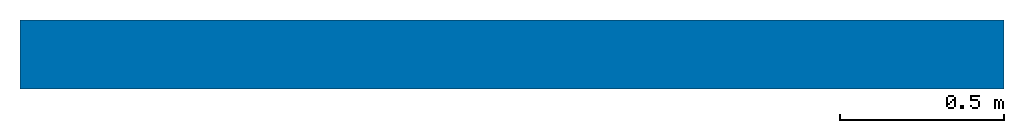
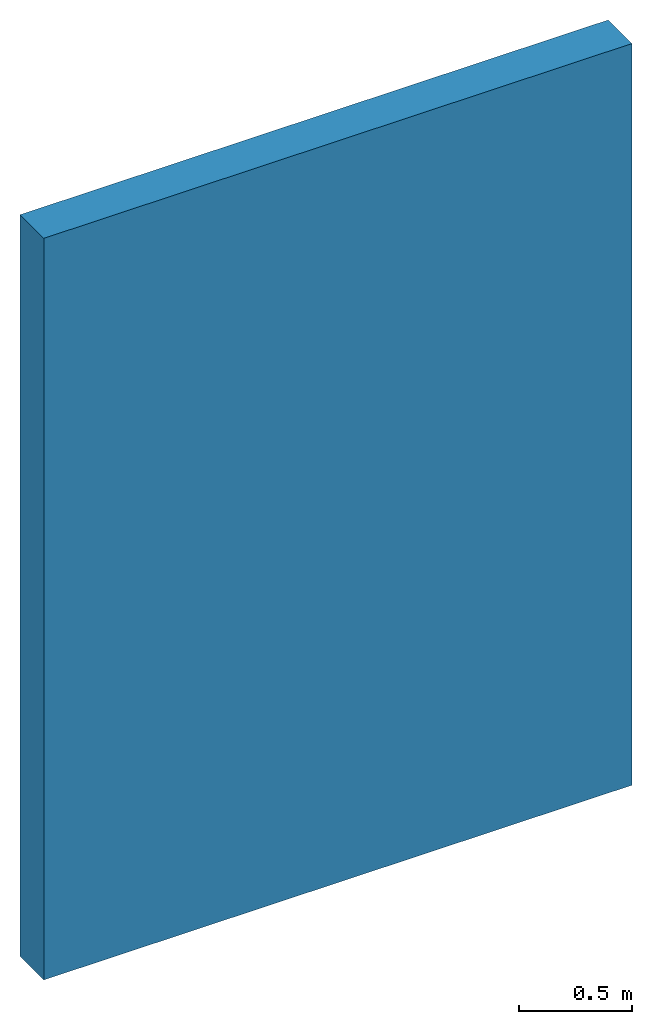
# One storey: 1 wall.
"""IFC2X3 building model written with IfcOpenShell, lengths in millimetres."""

from ifc_helpers import new_model, entity, si_unit, converted_unit, derived_unit, direction, frame, frame_2d, origin, place, context, subcontext, project, spatial, rectangle, extrude, material, layer, layer_set, layer_usage, type_object, element, save


model = new_model("IFC2X3")

# Units and contexts
model_context = context("Model", 3, precision=0.01, world=origin(), true_north=direction((6.12303176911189e-17, 1.0)))
body_context = subcontext(model_context, "Body", "Model", "MODEL_VIEW")
ifc_project = project(units=[si_unit("LENGTHUNIT", "METRE", prefix="MILLI"), si_unit("AREAUNIT", "SQUARE_METRE"), si_unit("VOLUMEUNIT", "CUBIC_METRE"), converted_unit("PLANEANGLEUNIT", "DEGREE", entity("IfcRatioMeasure", 0.0174532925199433), si_unit("PLANEANGLEUNIT", "RADIAN"), dimensions=[0, 0, 0, 0, 0, 0, 0]), si_unit("MASSUNIT", "GRAM", prefix="KILO"), si_unit("TIMEUNIT", "SECOND"), si_unit("FREQUENCYUNIT", "HERTZ"), si_unit("THERMODYNAMICTEMPERATUREUNIT", "DEGREE_CELSIUS"), derived_unit("THERMALTRANSMITTANCEUNIT", [(si_unit("MASSUNIT", "GRAM", prefix="KILO"), 1), (si_unit("THERMODYNAMICTEMPERATUREUNIT", "KELVIN"), -1), (si_unit("TIMEUNIT", "SECOND"), -3)]), derived_unit("VOLUMETRICFLOWRATEUNIT", [(si_unit("LENGTHUNIT", "METRE"), 3), (si_unit("TIMEUNIT", "SECOND"), -1)]), si_unit("ELECTRICCURRENTUNIT", "AMPERE"), si_unit("ELECTRICVOLTAGEUNIT", "VOLT"), si_unit("POWERUNIT", "WATT"), si_unit("FORCEUNIT", "NEWTON", prefix="KILO"), si_unit("ILLUMINANCEUNIT", "LUX"), si_unit("LUMINOUSFLUXUNIT", "LUMEN"), si_unit("LUMINOUSINTENSITYUNIT", "CANDELA"), derived_unit("USERDEFINED", [(si_unit("MASSUNIT", "GRAM", prefix="KILO"), -1), (si_unit("LENGTHUNIT", "METRE"), -2), (si_unit("TIMEUNIT", "SECOND"), 3), (si_unit("LUMINOUSFLUXUNIT", "LUMEN"), 1)]), derived_unit("LINEARVELOCITYUNIT", [(si_unit("LENGTHUNIT", "METRE"), 1), (si_unit("TIMEUNIT", "SECOND"), -1)]), si_unit("PRESSUREUNIT", "PASCAL"), derived_unit("USERDEFINED", [(si_unit("LENGTHUNIT", "METRE"), -2), (si_unit("MASSUNIT", "GRAM", prefix="KILO"), 1), (si_unit("TIMEUNIT", "SECOND"), -2)])], contexts=[model_context])

# Site, building, storey
site_placement = place(None, origin())
site = spatial("IfcSite", under=ifc_project, at=site_placement, Name="Default", CompositionType="ELEMENT")
building_placement = place(site_placement, origin())
building = spatial("IfcBuilding", under=site, at=building_placement, CompositionType="ELEMENT")
storey_placement = place(building_placement, origin())
storey = spatial("IfcBuildingStorey", under=building, at=storey_placement, Name="Уровень 1", CompositionType="ELEMENT", Elevation=0.0)

# Wall
ifc_material_1 = material(Name="Кнауф-Плита пазогребневая")
ifc_layer_1 = layer(ifc_material_1, 80.0)
ifc_material_2 = material(Name="КНАУФ-профиль+мин.вата 50@600mm")
ifc_layer_2 = layer(ifc_material_2, 50.0)
ifc_layer_3 = layer(ifc_material_1, 80.0)
ifc_layer_set = layer_set([ifc_layer_1, ifc_layer_2, ifc_layer_3], Name="Базовая стена:Перегородка КНАУФ ПГП 80 Применение внутри здания Двойная ПлГ 80 Мин.вата")
ifc_layer_usage = layer_usage(ifc_layer_set, "AXIS2", "NEGATIVE", 105.0)
wall_type = type_object("IfcWallType", Name="Базовая стена:Перегородка КНАУФ ПГП 80 Применение внутри здания Двойная ПлГ 80 Мин.вата", PredefinedType="STANDARD", material=ifc_layer_set)
wall_placement = place(storey_placement, frame((2081.12060997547, 1028.28801289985, 0.0)))
element("IfcWallStandardCase", 1, at=wall_placement, inside=storey, type_object=wall_type, material=ifc_layer_usage, Name="Базовая стена:Перегородка КНАУФ ПГП 80 Применение внутри здания Двойная ПлГ 80 Мин.вата", ObjectType="Базовая стена:Перегородка КНАУФ ПГП 80 Применение внутри здания Двойная ПлГ 80 Мин.вата", context=body_context, shape_type="SweptSolid", body=[
    extrude(rectangle(XDim=3000.0, YDim=210.0, at=frame_2d((1500.0, 0.0), x_axis=(-1.0, 0.0))), origin(), (0.0, 0.0, 1.0), 4000.0),
])

save(model, "model.ifc")
